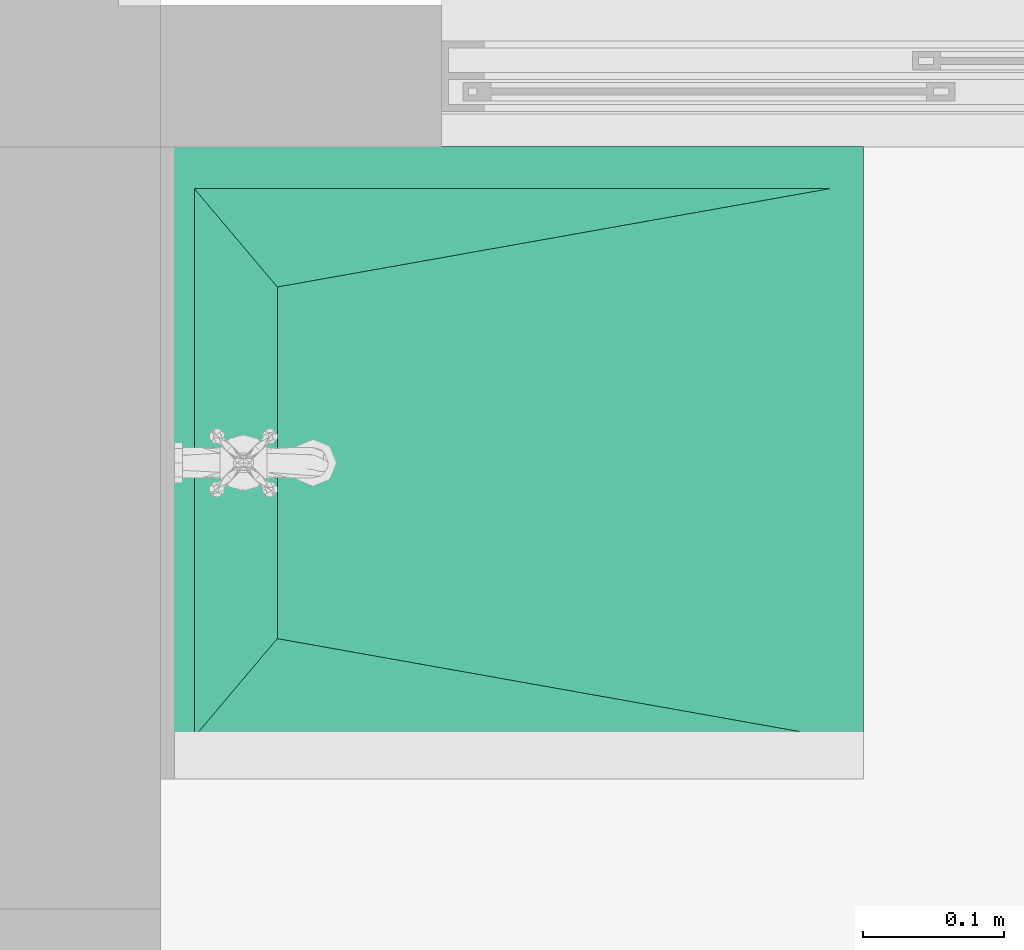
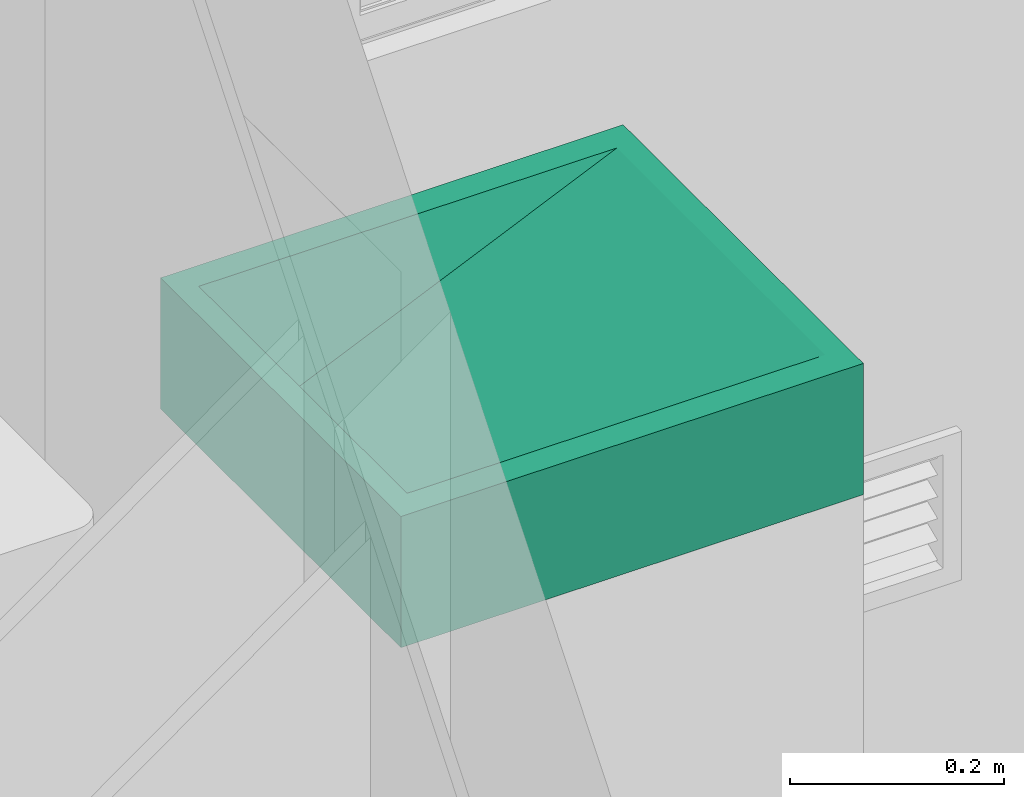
# One storey, part 38 of 48: 1 flow terminal.
"""IFC4 building model written with IfcOpenShell, lengths in metres."""

from ifc_helpers import new_model, entity, si_unit, converted_unit, derived_unit, direction, frame, origin, place, context, subcontext, project, spatial, polygons, source, transform, mapped, material, type_object, type_shapes, element, save


model = new_model("IFC4")

# Units and contexts
model_context = context("Model", 3, precision=1e-05, world=origin(), true_north=direction((6.123031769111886e-17, 1.0)))
body_context = subcontext(model_context, "Body", "Model", "MODEL_VIEW")
ifc_project = project(units=[si_unit("LENGTHUNIT", "METRE"), si_unit("AREAUNIT", "SQUARE_METRE"), si_unit("VOLUMEUNIT", "CUBIC_METRE"), converted_unit("PLANEANGLEUNIT", "DEGREE", entity("IfcRatioMeasure", 0.017453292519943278), si_unit("PLANEANGLEUNIT", "RADIAN"), dimensions=[0, 0, 0, 0, 0, 0, 0]), si_unit("MASSUNIT", "GRAM", prefix="KILO"), derived_unit("MASSDENSITYUNIT", [(si_unit("MASSUNIT", "GRAM", prefix="KILO"), 1), (si_unit("LENGTHUNIT", "METRE"), -3)]), derived_unit("IONCONCENTRATIONUNIT", [(si_unit("MASSUNIT", "GRAM", prefix="KILO"), 1), (si_unit("LENGTHUNIT", "METRE"), -3)]), derived_unit("MOMENTOFINERTIAUNIT", [(si_unit("LENGTHUNIT", "METRE"), 4)]), si_unit("TIMEUNIT", "SECOND"), si_unit("FREQUENCYUNIT", "HERTZ"), si_unit("THERMODYNAMICTEMPERATUREUNIT", "DEGREE_CELSIUS"), derived_unit("THERMALTRANSMITTANCEUNIT", [(si_unit("MASSUNIT", "GRAM", prefix="KILO"), 1), (si_unit("THERMODYNAMICTEMPERATUREUNIT", "KELVIN"), -1), (si_unit("TIMEUNIT", "SECOND"), -3)]), derived_unit("THERMALCONDUCTANCEUNIT", [(si_unit("MASSUNIT", "GRAM", prefix="KILO"), 1), (si_unit("THERMODYNAMICTEMPERATUREUNIT", "KELVIN"), -1), (si_unit("TIMEUNIT", "SECOND"), -3), (si_unit("LENGTHUNIT", "METRE"), 1)]), derived_unit("VOLUMETRICFLOWRATEUNIT", [(si_unit("LENGTHUNIT", "METRE"), 3), (si_unit("TIMEUNIT", "SECOND"), -1)]), derived_unit("MASSFLOWRATEUNIT", [(si_unit("MASSUNIT", "GRAM", prefix="KILO"), 1), (si_unit("TIMEUNIT", "SECOND"), -1)]), derived_unit("ROTATIONALFREQUENCYUNIT", [(si_unit("TIMEUNIT", "SECOND"), -1)]), si_unit("ELECTRICCURRENTUNIT", "AMPERE"), si_unit("ELECTRICVOLTAGEUNIT", "VOLT"), si_unit("POWERUNIT", "WATT"), si_unit("FORCEUNIT", "NEWTON", prefix="KILO"), si_unit("ILLUMINANCEUNIT", "LUX"), si_unit("LUMINOUSFLUXUNIT", "LUMEN"), si_unit("LUMINOUSINTENSITYUNIT", "CANDELA"), derived_unit("USERDEFINED", [(si_unit("MASSUNIT", "GRAM", prefix="KILO"), -1), (si_unit("LENGTHUNIT", "METRE"), -2), (si_unit("TIMEUNIT", "SECOND"), 3), (si_unit("LUMINOUSFLUXUNIT", "LUMEN"), 1)]), derived_unit("USERDEFINED", [(si_unit("MASSUNIT", "GRAM", prefix="KILO"), 1), (si_unit("TIMEUNIT", "SECOND"), -3), (si_unit("LENGTHUNIT", "METRE"), 3), (si_unit("ELECTRICCURRENTUNIT", "AMPERE"), -2)]), derived_unit("SOUNDPOWERUNIT", [(si_unit("MASSUNIT", "GRAM", prefix="KILO"), 1), (si_unit("TIMEUNIT", "SECOND"), -3), (si_unit("LENGTHUNIT", "METRE"), 2)]), derived_unit("SOUNDPRESSUREUNIT", [(si_unit("MASSUNIT", "GRAM", prefix="KILO"), 1), (si_unit("LENGTHUNIT", "METRE"), -1), (si_unit("TIMEUNIT", "SECOND"), -2)]), derived_unit("LINEARVELOCITYUNIT", [(si_unit("LENGTHUNIT", "METRE"), 1), (si_unit("TIMEUNIT", "SECOND"), -1)]), si_unit("PRESSUREUNIT", "PASCAL"), derived_unit("USERDEFINED", [(si_unit("MASSUNIT", "GRAM", prefix="KILO"), 1), (si_unit("LENGTHUNIT", "METRE"), -2), (si_unit("TIMEUNIT", "SECOND"), -2)]), derived_unit("LINEARFORCEUNIT", [(si_unit("MASSUNIT", "GRAM", prefix="KILO"), 1), (si_unit("TIMEUNIT", "SECOND"), -2)]), derived_unit("PLANARFORCEUNIT", [(si_unit("MASSUNIT", "GRAM", prefix="KILO"), 1), (si_unit("LENGTHUNIT", "METRE"), -1), (si_unit("TIMEUNIT", "SECOND"), -2)]), derived_unit("SPECIFICHEATCAPACITYUNIT", [(si_unit("THERMODYNAMICTEMPERATUREUNIT", "KELVIN"), -1), (si_unit("LENGTHUNIT", "METRE"), 2), (si_unit("TIMEUNIT", "SECOND"), -2)]), derived_unit("HEATINGVALUEUNIT", [(si_unit("LENGTHUNIT", "METRE"), 2), (si_unit("TIMEUNIT", "SECOND"), -2)]), derived_unit("VAPORPERMEABILITYUNIT", [(si_unit("LENGTHUNIT", "METRE"), -1), (si_unit("TIMEUNIT", "SECOND"), 1)]), derived_unit("DYNAMICVISCOSITYUNIT", [(si_unit("MASSUNIT", "GRAM", prefix="KILO"), 1), (si_unit("TIMEUNIT", "SECOND"), -1), (si_unit("LENGTHUNIT", "METRE"), -1)]), derived_unit("THERMALEXPANSIONCOEFFICIENTUNIT", [(si_unit("THERMODYNAMICTEMPERATUREUNIT", "KELVIN"), -1)]), derived_unit("MODULUSOFELASTICITYUNIT", [(si_unit("MASSUNIT", "GRAM", prefix="KILO"), 1), (si_unit("LENGTHUNIT", "METRE"), -1), (si_unit("TIMEUNIT", "SECOND"), -2)]), derived_unit("ISOTHERMALMOISTURECAPACITYUNIT", [(si_unit("LENGTHUNIT", "METRE"), 3), (si_unit("MASSUNIT", "GRAM", prefix="KILO"), -1)]), derived_unit("MOISTUREDIFFUSIVITYUNIT", [(si_unit("TIMEUNIT", "SECOND"), -1), (si_unit("LENGTHUNIT", "METRE"), 2)])], contexts=[model_context])

# Site, building, storey, space
site_placement = place(None, origin())
site = spatial("IfcSite", under=ifc_project, at=site_placement, Name="Default", CompositionType="ELEMENT")
building_placement = place(site_placement, origin())
building = spatial("IfcBuilding", under=site, at=building_placement, CompositionType="ELEMENT")
storey_placement = place(building_placement, frame((0.0, 0.0, 7.050000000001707)))
storey = spatial("IfcBuildingStorey", under=building, at=storey_placement, Name="Nivel 4", CompositionType="ELEMENT", Elevation=7.050000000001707)
space_placement = place(storey_placement, origin())
space = spatial("IfcSpace", under=storey, at=space_placement, Name="212", CompositionType="ELEMENT", PredefinedType="SPACE")

# Flow terminal
ifc_material = material(Name="Lavadero", Category="Materials")
distribution_element_type = type_object("IfcDistributionElementType", Name="D2010 - Lavadero - Granito:D2010 - Lavadero - Concreto", material=ifc_material)
shared_shape = source(origin(), body_context, "Body", "Tessellation", [
    polygons([(0.03000000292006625, 0.023999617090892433, 0.15000000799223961), (0.09992663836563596, 0.41697036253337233, 0.05000015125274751), (0.02999997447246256, 0.47600003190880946, 0.15000000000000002), (0.3500731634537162, 0.41697028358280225, 0.050000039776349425), (0.4199999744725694, 0.47600003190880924, 0.15000000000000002), (0.4199999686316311, 0.023999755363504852, 0.15000001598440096), (0.4499999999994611, -3.383959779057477e-17, 0.0), (0.4499999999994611, 0.5000004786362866, 0.0), (0.4499999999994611, 0.5000004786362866, 0.15000000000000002), (0.4499999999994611, -3.383959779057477e-17, 0.15000000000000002), (6.767919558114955e-17, 3.383959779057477e-17, 0.15000000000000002), (6.767919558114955e-17, 3.383959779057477e-17, 0.0), (6.767919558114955e-17, 0.5000004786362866, 0.15000000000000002), (6.767919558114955e-17, 0.5000004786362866, 0.0), (0.4199999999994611, 0.019999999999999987, 0.0), (0.4199999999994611, 0.4800004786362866, 0.0), (0.030000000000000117, 0.4800004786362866, 0.0), (0.030000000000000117, 0.019999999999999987, 0.0), (0.4199999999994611, 0.019999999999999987, 0.034883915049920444), (0.4199999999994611, 0.4800004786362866, 0.034883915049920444), (0.030000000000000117, 0.019999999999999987, 0.034883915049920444), (0.030000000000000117, 0.4800004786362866, 0.034883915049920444)], [[[1, 2, 3]], [[3, 2, 4, 5]], [[5, 4, 6]], [[2, 1, 6, 4]], [[7, 8, 9, 10]], [[7, 10, 11, 12]], [[12, 11, 13, 14]], [[9, 8, 14, 13]], [[8, 7, 12, 14], [15, 16, 17, 18]], [[10, 9, 13, 11], [1, 3, 5, 6]], [[19, 20, 16, 15]], [[21, 19, 15, 18]], [[22, 21, 18, 17]], [[20, 22, 17, 16]], [[20, 19, 21, 22]]], closed=True),
])
type_shapes(distribution_element_type, [shared_shape])
flow_terminal_placement = place(space_placement, frame((4.587500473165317, -8.175000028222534, 0.7799999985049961), z_axis=(0.0, 0.0, 1.0), x_axis=(0.0, 1.0, 0.0)))
element("IfcFlowTerminal", 1, at=flow_terminal_placement, inside=space, type_object=distribution_element_type, material=ifc_material, Name="D2010 - Lavadero - Granito:D2010 - Lavadero - Concreto", ObjectType="D2010 - Lavadero - Granito:D2010 - Lavadero - Concreto", context=body_context, shape_type="MappedRepresentation", body=[
    mapped(shared_shape, transform((0.0, 0.0, 0.0), scale=1.0)),
])

save(model, "model.ifc")
